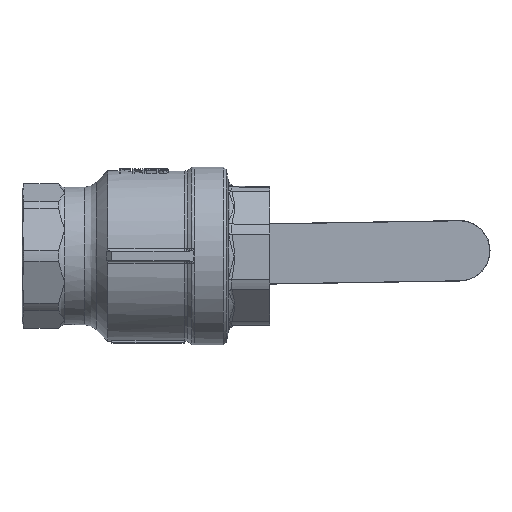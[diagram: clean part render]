
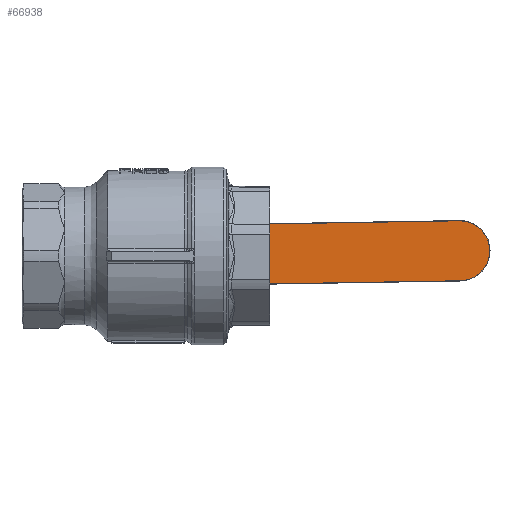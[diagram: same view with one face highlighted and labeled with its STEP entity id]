
A CAD part, front view. The second image highlights one B-rep face of the part: STEP entity #66938.
In plain terms, the highlighted planar face has unit normal (0, -1, 0).
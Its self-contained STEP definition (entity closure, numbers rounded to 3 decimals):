
#66725=CARTESIAN_POINT('',(4.414,133.995,12.834));
#66726=VERTEX_POINT('',#66725);
#66734=CARTESIAN_POINT('',(94.802,133.995,14.321));
#66735=VERTEX_POINT('',#66734);
#66736=CARTESIAN_POINT('',(4.414,133.995,12.834));
#66737=DIRECTION('',(1.,0.,0.016));
#66738=VECTOR('',#66737,90.4);
#66739=LINE('',#66736,#66738);
#66740=EDGE_CURVE('',#66726,#66735,#66739,.T.);
#66758=CARTESIAN_POINT('',(3.234,133.995,11.614));
#66759=VERTEX_POINT('',#66758);
#66767=CARTESIAN_POINT('',(4.434,133.995,11.634));
#66768=DIRECTION('',(0.,1.,0.));
#66769=DIRECTION('',(-0.719,0.,0.695));
#66770=AXIS2_PLACEMENT_3D('',#66767,#66768,#66769);
#66771=CIRCLE('',#66770,1.2);
#66772=EDGE_CURVE('',#66759,#66726,#66771,.T.);
#66784=CARTESIAN_POINT('',(95.203,133.995,-10.075));
#66785=VERTEX_POINT('',#66784);
#66803=CARTESIAN_POINT('',(95.003,133.995,2.123));
#66804=DIRECTION('',(0.,1.,0.));
#66805=DIRECTION('',(1.,0.,0.016));
#66806=AXIS2_PLACEMENT_3D('',#66803,#66804,#66805);
#66807=CIRCLE('',#66806,12.2);
#66808=EDGE_CURVE('',#66735,#66785,#66807,.T.);
#66820=CARTESIAN_POINT('',(3.596,133.995,-10.383));
#66821=VERTEX_POINT('',#66820);
#66829=CARTESIAN_POINT('',(3.596,133.995,-10.383));
#66830=DIRECTION('',(-0.016,0.0,1.));
#66831=VECTOR('',#66830,22.);
#66832=LINE('',#66829,#66831);
#66833=EDGE_CURVE('',#66821,#66759,#66832,.T.);
#66850=CARTESIAN_POINT('',(4.816,133.995,-11.563));
#66851=VERTEX_POINT('',#66850);
#66868=CARTESIAN_POINT('',(95.203,133.995,-10.075));
#66869=DIRECTION('',(-1.,0.,-0.016));
#66870=VECTOR('',#66869,90.4);
#66871=LINE('',#66868,#66870);
#66872=EDGE_CURVE('',#66785,#66851,#66871,.T.);
#66891=CARTESIAN_POINT('',(4.796,133.995,-10.363));
#66892=DIRECTION('',(0.,1.,0.));
#66893=DIRECTION('',(-0.695,0.,-0.719));
#66894=AXIS2_PLACEMENT_3D('',#66891,#66892,#66893);
#66895=CIRCLE('',#66894,1.2);
#66896=EDGE_CURVE('',#66851,#66821,#66895,.T.);
#66925=CARTESIAN_POINT('',(53.101,133.995,1.433));
#66926=DIRECTION('',(0.0,1.0,0.0));
#66927=DIRECTION('',(1.,0.0,0.016));
#66928=AXIS2_PLACEMENT_3D('',#66925,#66926,#66927);
#66929=PLANE('',#66928);
#66930=ORIENTED_EDGE('',*,*,#66740,.F.);
#66931=ORIENTED_EDGE('',*,*,#66772,.F.);
#66932=ORIENTED_EDGE('',*,*,#66833,.F.);
#66933=ORIENTED_EDGE('',*,*,#66896,.F.);
#66934=ORIENTED_EDGE('',*,*,#66872,.F.);
#66935=ORIENTED_EDGE('',*,*,#66808,.F.);
#66936=EDGE_LOOP('',(#66930,#66931,#66932,#66933,#66934,#66935));
#66937=FACE_OUTER_BOUND('',#66936,.T.);
#66938=ADVANCED_FACE('',(#66937),#66929,.F.);
